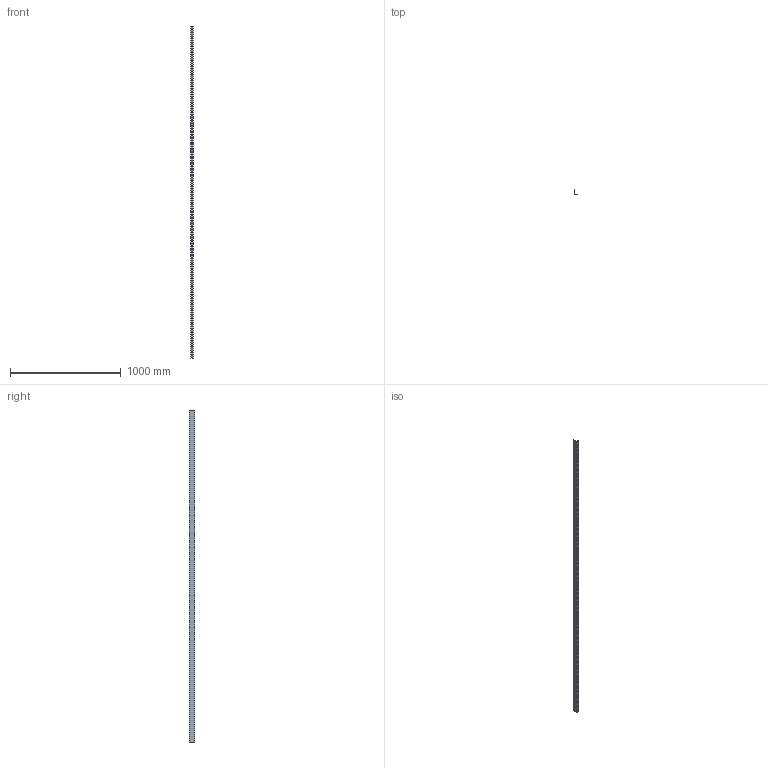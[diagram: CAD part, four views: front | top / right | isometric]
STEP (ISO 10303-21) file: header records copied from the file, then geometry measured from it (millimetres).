
FILE_DESCRIPTION (( 'STEP AP214' ), '1' );
FILE_NAME ('52D3B.step', '2025-02-21T10:28:04', ( '' ), ( '' ), 'SwSTEP 2.0', 'SolidWorks 2023', '' );
FILE_SCHEMA (( 'AUTOMOTIVE_DESIGN' ));
Length unit declared in the file: millimetre
Products named in the file (1): 52D3B
Bounding box: 27 x 48 x 3000 mm (x, y, z)
Volume: 168000 mm3; surface area: 428605.1 mm2
Topology: 1 solids, 1 shells, 296 faces, 882 edges, 588 vertices
Faces by surface type: plane 296
Entity records: 10037 total; most frequent: CARTESIAN_POINT 1767, ORIENTED_EDGE 1764, DIRECTION 1476, EDGE_CURVE 882, LINE 882, VECTOR 882, VERTEX_POINT 588, EDGE_LOOP 440
